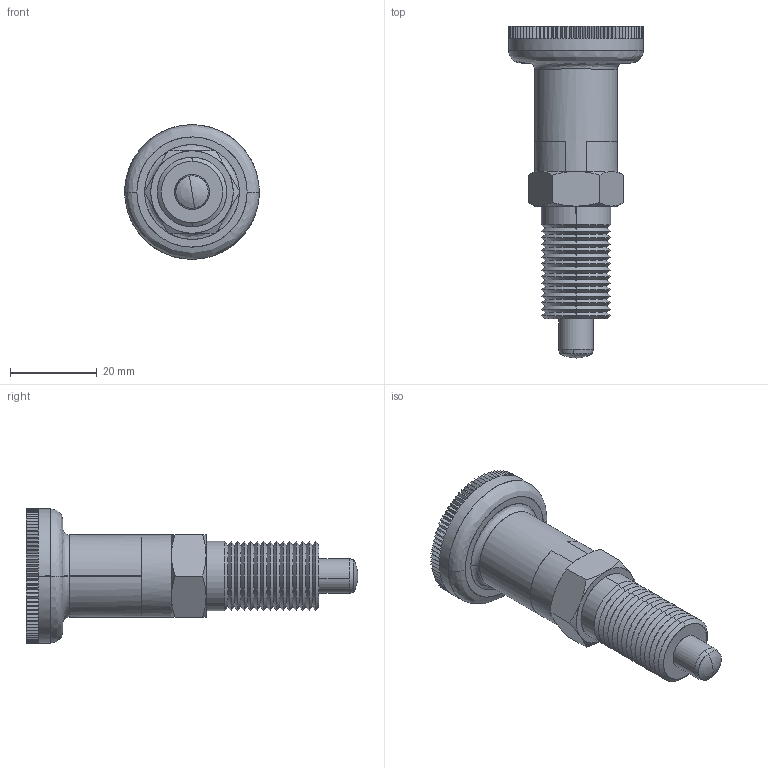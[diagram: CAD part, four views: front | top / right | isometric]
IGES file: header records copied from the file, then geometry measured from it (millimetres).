
Start section: SolidWorks IGES file using analytic representation for surfaces
Global section: file name: C:\Documents and Settings\IANO\My Documents\Wix and Auto CAD Work\CAD Models\Parametric Models\Wix Models\30000\32712_v2\32712_v2_20160414_IGES\Default.igs; native system: SolidWorks 2009; preprocessor: SolidWorks 2009; author: IANO; date: 160630.184857; units: millimetre
Bounding box: 31 x 76.5 x 31 mm (x, y, z)
Surface area: 9869.6 mm2 (no closed solid volume)
Topology: 0 solids, 0 shells, 415 faces, 2714 edges, 2712 vertices
Faces by surface type: bspline 315, revolution 100
